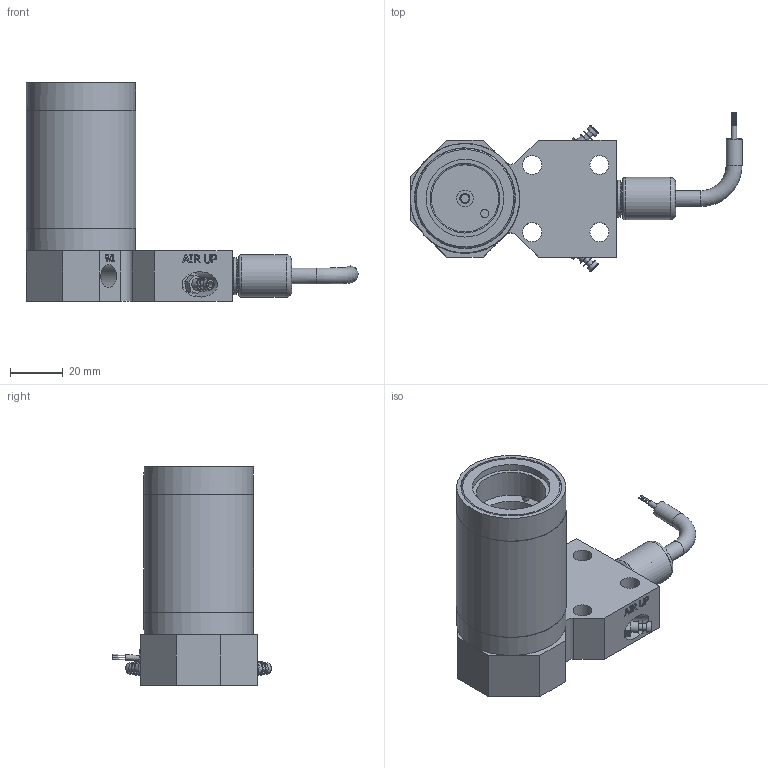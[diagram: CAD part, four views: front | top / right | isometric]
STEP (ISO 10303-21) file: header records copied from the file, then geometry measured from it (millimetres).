
FILE_DESCRIPTION(/* description */ ('ASSY,BODY,VF,LVDT,SXTR4,NHP'),/* implementation_level */ '2;1');
FILE_NAME(/* name */ 'X:\ASSY,BODY,VF,LVDT,SXTR4,NHP_0000687922.stp',/* time_stamp */ '2021-04-13T13:04:20-04:00',/* author */ ('Simon.Britton'),/* organization */ (''),/* preprocessor_version */ 'ST-DEVELOPER v17',/* originating_system */ 'Autodesk Inventor 2019',/* authorisation */ '');
FILE_SCHEMA (('AUTOMOTIVE_DESIGN { 1 0 10303 214 3 1 1 }'));
Length unit declared in the file: millimetre
Products named in the file (1): ASSY,BODY,VF,LVDT,SXTR4,NHP
Bounding box: 125.43 x 60.06 x 82.55 mm (x, y, z)
Volume: 110659.7 mm3; surface area: 52824.7 mm2
Topology: 4 solids, 12 shells, 1069 faces, 2882 edges, 1926 vertices
Faces by surface type: plane 529, bspline 326, cylinder 152, cone 50, torus 12
Full cylindrical faces by diameter (mm): 0.5 x4, 0.55 x4, 2 x1, 2.381 x2, 2.464 x1, 3.15 x2, 3.175 x3, 3.81 x3, 4 x3, 4.064 x4, 4.216 x4, 6 x3, 6.35 x5, 7.144 x4, 8 x1, 8.731 x4, 9.525 x2, 10 x1, 12.01 x1, 12.7 x2, 13.716 x1, 14 x2, 15.206 x1, 16 x1, 25.4 x1, 26.289 x1, 29.369 x1, 35.103 x3, 37.846 x4, 38.1 x1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
Entity records: 94350 total; most frequent: CARTESIAN_POINT 68651, ORIENTED_EDGE 5742, DIRECTION 3895, EDGE_CURVE 2871, VERTEX_POINT 1922, LINE 1437, VECTOR 1437, AXIS2_PLACEMENT_3D 1229
